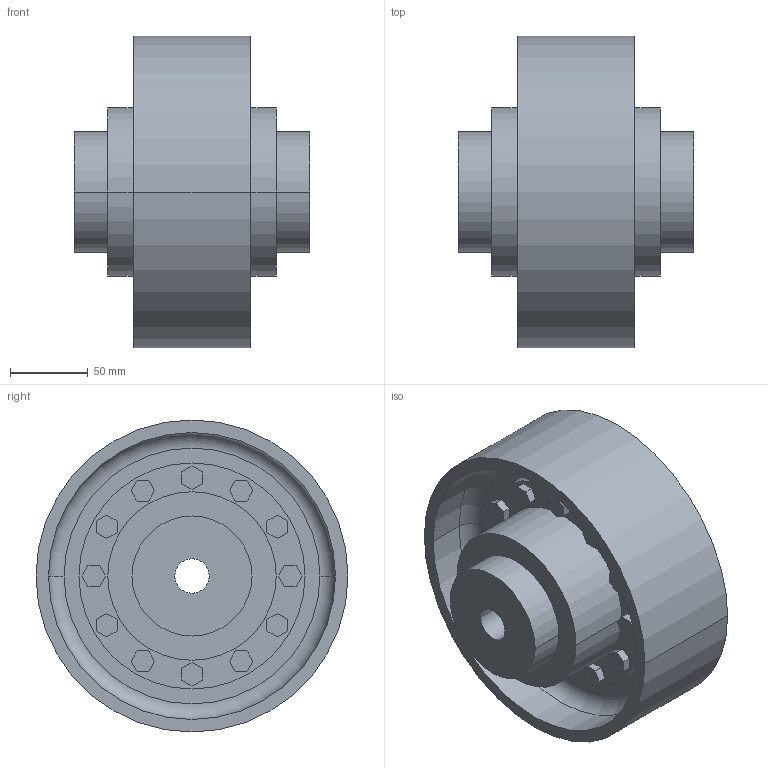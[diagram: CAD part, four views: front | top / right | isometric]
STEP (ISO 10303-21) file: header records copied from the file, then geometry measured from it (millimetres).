
FILE_DESCRIPTION((''),'2;1');
FILE_NAME('A19108900-0_ASM','2018-11-12T',('AB_Roschiwal'),('RENK AG'),'PRO/ENGINEER BY PARAMETRIC TECHNOLOGY CORPORATION, 2015440','PRO/ENGINEER BY PARAMETRIC TECHNOLOGY CORPORATION, 2015440','');
FILE_SCHEMA(('CONFIG_CONTROL_DESIGN'));
Length unit declared in the file: millimetre
Products named in the file (4): LBKD48_GEHAEUSE; LBKD48_NABE; LBKD48_BREMSSCHEIBE; A19108900-0_ASM
Assembly tree (4 placements, depth 2):
  A19108900-0_ASM
    LBKD48_GEHAEUSE
    LBKD48_NABE  x2
    LBKD48_BREMSSCHEIBE
Bounding box: 151 x 200 x 200 mm (x, y, z)
Volume: 1656967.6 mm3; surface area: 327062.7 mm2
Topology: 4 solids, 4 shells, 292 faces, 704 edges, 468 vertices
Faces by surface type: plane 200, cylinder 88, torus 4
Entity records: 8356 total; most frequent: DIRECTION 1424, CARTESIAN_POINT 1420, ORIENTED_EDGE 1360, EDGE_CURVE 680, VECTOR 512, LINE 512, AXIS2_PLACEMENT_3D 456, VERTEX_POINT 452
